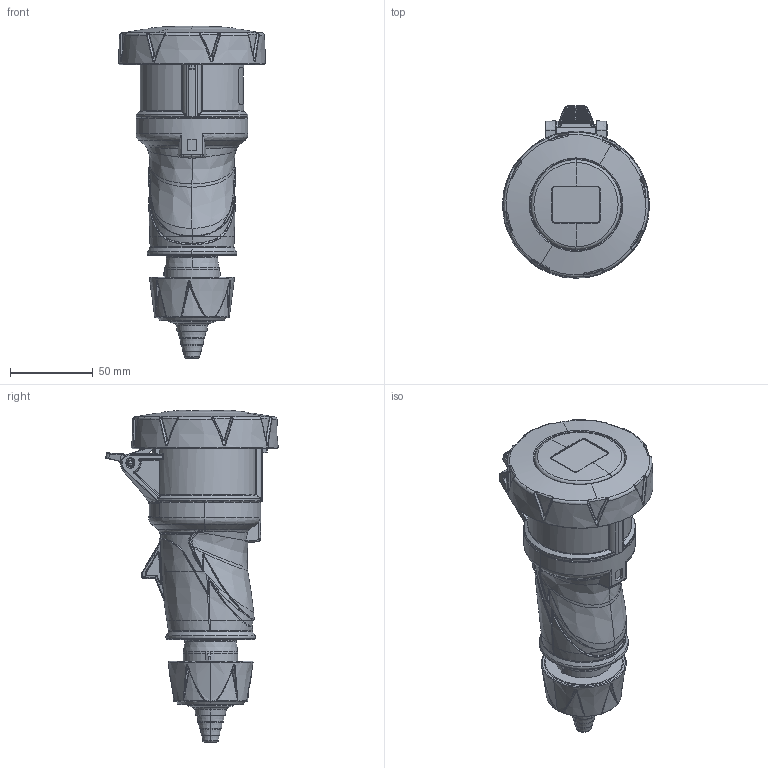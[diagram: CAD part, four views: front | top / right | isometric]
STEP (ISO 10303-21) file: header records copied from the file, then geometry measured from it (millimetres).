
FILE_DESCRIPTION((''),'2;1');
FILE_NAME('1148699_ASM_SW0001','2025-03-26T11:29:35',('peters001'),('MENNEKES'),'CREO PARAMETRIC BY PTC INC, 2023134','CREO PARAMETRIC BY PTC INC, 2023134','');
FILE_SCHEMA(('AUTOMOTIVE_DESIGN { 1 0 10303 214 1 1 1 1 }'));
Length unit declared in the file: millimetre
Products named in the file (1): 1148699_ASM_SW0001
Bounding box: 88.96 x 104.42 x 200.89 mm (x, y, z)
Volume: 500618.3 mm3; surface area: 54140.5 mm2
Topology: 1 solids, 1 shells, 1853 faces, 4378 edges, 2549 vertices
Faces by surface type: bspline 1135, cylinder 257, plane 199, torus 127, cone 85, sphere 37, extrusion 13
Entity records: 127780 total; most frequent: CARTESIAN_POINT 66778, ORIENTED_EDGE 8752, PRESENTATION_STYLE_ASSIGNMENT 6243, DIRECTION 4900, STYLED_ITEM 4390, CURVE_STYLE 4389, EDGE_CURVE 4376, VERTEX_POINT 2549
